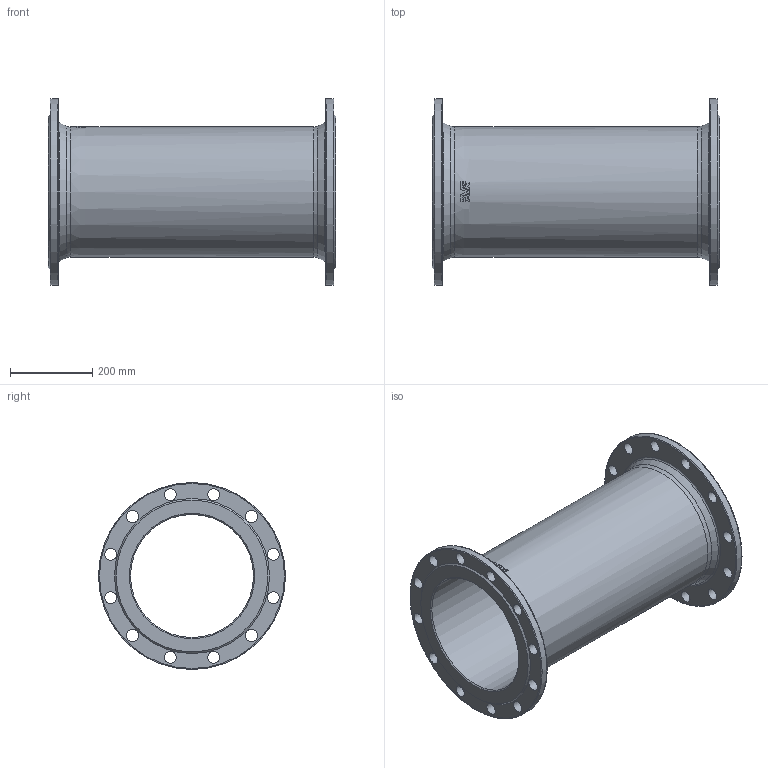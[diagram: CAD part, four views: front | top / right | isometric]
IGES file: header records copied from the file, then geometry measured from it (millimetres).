
Start section: SolidWorks IGES file using analytic representation for surfaces
Global section: file name: \\avksan2\techshare\PBM outline export from Enovia\O_712_5010_DN300_1X_REV01.igs; native system: SolidWorks 2019; preprocessor: SolidWorks 2019; author: pbm; date: 211203.105414; units: millimetre
Bounding box: 700 x 455 x 455 mm (x, y, z)
Surface area: 1709333.6 mm2 (no closed solid volume)
Topology: 0 solids, 0 shells, 89 faces, 436 edges, 393 vertices
Faces by surface type: revolution 46, bspline 43
